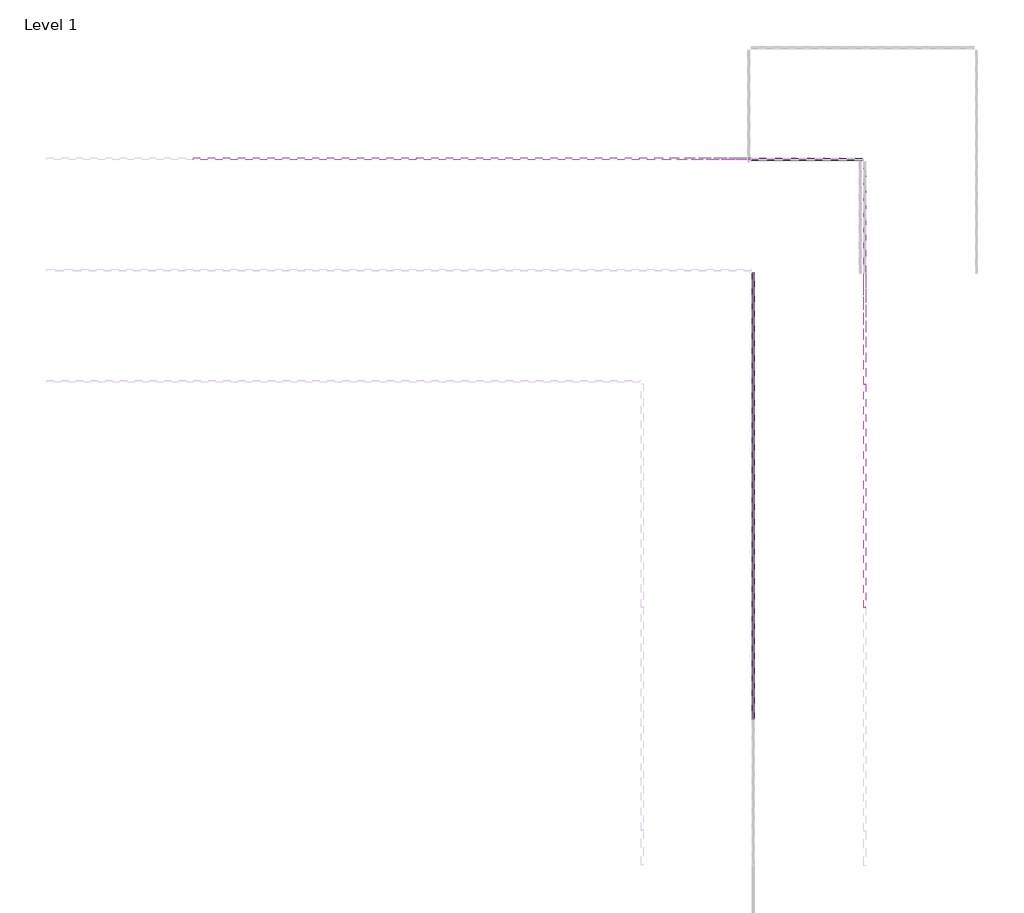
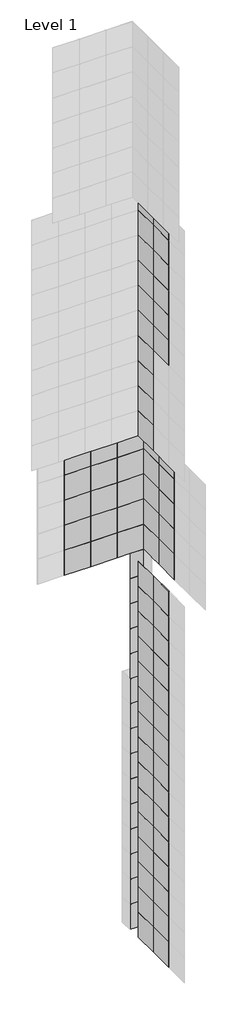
# One storey, part 10 of 15: 134 plates.
"""IFC4 building model written with IfcOpenShell, lengths in millimetres."""

from ifc_helpers import new_model, si_unit, origin, place, context, project, spatial, transform, mapped, element, save
from components import system_panel_glazed_9c75bc08, system_panel_glazed_0a0842ec, system_panel_glazed_aa64d645, system_panel_glazed_b248394d

model = new_model("IFC4")

# Units and contexts
model_context = context("Model", 3, world=origin())
ifc_project = project(units=[si_unit("LENGTHUNIT", "METRE", prefix="MILLI")], contexts=[model_context])

# Site, building, storey
site = spatial("IfcSite", under=ifc_project)
building = spatial("IfcBuilding", under=site)
storey = spatial("IfcBuildingStorey", under=building, Name="Level 1", Elevation=0.0)

# Plates
placement = place(None, origin())
system_panel_glazed_shape = system_panel_glazed_9c75bc08(model_context)
element("IfcPlate", 1, ObjectType="System Panel : Glazed", at=placement, inside=storey, context=model_context, shape_type="MappedRepresentation", body=[
    mapped(system_panel_glazed_shape, transform((-6361.4161695, 9497.9495511, 0.0), x_axis=(-1.0, 0.0, 0.0), y_axis=(0.0, -1.0, 0.0), z_axis=(0.0, 0.0, 1.0))),
])
element("IfcPlate", 2, ObjectType="System Panel : Glazed", at=placement, inside=storey, context=model_context, shape_type="MappedRepresentation", body=[
    mapped(system_panel_glazed_shape, transform((-6361.4161695, 9497.9495511, 3048.0), x_axis=(-1.0, 0.0, 0.0), y_axis=(0.0, -1.0, 0.0), z_axis=(0.0, 0.0, 1.0))),
])
element("IfcPlate", 3, ObjectType="System Panel : Glazed", at=placement, inside=storey, context=model_context, shape_type="MappedRepresentation", body=[
    mapped(system_panel_glazed_shape, transform((-6361.4161695, 9497.9495511, 6096.0), x_axis=(-1.0, 0.0, 0.0), y_axis=(0.0, -1.0, 0.0), z_axis=(0.0, 0.0, 1.0))),
])
element("IfcPlate", 4, ObjectType="System Panel : Glazed", at=placement, inside=storey, context=model_context, shape_type="MappedRepresentation", body=[
    mapped(system_panel_glazed_shape, transform((-6361.4161695, 9497.9495511, 9144.0), x_axis=(-1.0, 0.0, 0.0), y_axis=(0.0, -1.0, 0.0), z_axis=(0.0, 0.0, 1.0))),
])
element("IfcPlate", 5, ObjectType="System Panel : Glazed", at=placement, inside=storey, context=model_context, shape_type="MappedRepresentation", body=[
    mapped(system_panel_glazed_shape, transform((-6361.4161695, 9497.9495511, 12192.0), x_axis=(-1.0, 0.0, 0.0), y_axis=(0.0, -1.0, 0.0), z_axis=(0.0, 0.0, 1.0))),
])
element("IfcPlate", 6, ObjectType="System Panel : Glazed", at=placement, inside=storey, context=model_context, shape_type="MappedRepresentation", body=[
    mapped(system_panel_glazed_shape, transform((-6361.4161695, 9497.9495511, 15240.0), x_axis=(-1.0, 0.0, 0.0), y_axis=(0.0, -1.0, 0.0), z_axis=(0.0, 0.0, 1.0))),
])
element("IfcPlate", 7, ObjectType="System Panel : Glazed", at=placement, inside=storey, context=model_context, shape_type="MappedRepresentation", body=[
    mapped(system_panel_glazed_shape, transform((-6361.4161695, 9497.9495511, 18288.0), x_axis=(-1.0, 0.0, 0.0), y_axis=(0.0, -1.0, 0.0), z_axis=(0.0, 0.0, 1.0))),
])
element("IfcPlate", 8, ObjectType="System Panel : Glazed", at=placement, inside=storey, context=model_context, shape_type="MappedRepresentation", body=[
    mapped(system_panel_glazed_shape, transform((-6361.4161695, 9497.9495511, 21336.0), x_axis=(-1.0, 0.0, 0.0), y_axis=(0.0, -1.0, 0.0), z_axis=(0.0, 0.0, 1.0))),
])
element("IfcPlate", 9, ObjectType="System Panel : Glazed", at=placement, inside=storey, context=model_context, shape_type="MappedRepresentation", body=[
    mapped(system_panel_glazed_shape, transform((-6361.4161695, 9497.9495511, 24384.0), x_axis=(-1.0, 0.0, 0.0), y_axis=(0.0, -1.0, 0.0), z_axis=(0.0, 0.0, 1.0))),
])
element("IfcPlate", 10, ObjectType="System Panel : Glazed", at=placement, inside=storey, context=model_context, shape_type="MappedRepresentation", body=[
    mapped(system_panel_glazed_shape, transform((-6361.4161695, 9497.9495511, 27432.0), x_axis=(-1.0, 0.0, 0.0), y_axis=(0.0, -1.0, 0.0), z_axis=(0.0, 0.0, 1.0))),
])
element("IfcPlate", 11, ObjectType="System Panel : Glazed", at=placement, inside=storey, context=model_context, shape_type="MappedRepresentation", body=[
    mapped(system_panel_glazed_shape, transform((-6361.4161695, 9497.9495511, 30480.0), x_axis=(-1.0, 0.0, 0.0), y_axis=(0.0, -1.0, 0.0), z_axis=(0.0, 0.0, 1.0))),
])
element("IfcPlate", 12, ObjectType="System Panel : Glazed", at=placement, inside=storey, context=model_context, shape_type="MappedRepresentation", body=[
    mapped(system_panel_glazed_shape, transform((-6361.4161695, 9497.9495511, 33528.0), x_axis=(-1.0, 0.0, 0.0), y_axis=(0.0, -1.0, 0.0), z_axis=(0.0, 0.0, 1.0))),
])
element("IfcPlate", 13, ObjectType="System Panel : Glazed", at=placement, inside=storey, context=model_context, shape_type="MappedRepresentation", body=[
    mapped(system_panel_glazed_shape, transform((-6361.4161695, 9497.9495511, 36576.0), x_axis=(-1.0, 0.0, 0.0), y_axis=(0.0, -1.0, 0.0), z_axis=(0.0, 0.0, 1.0))),
])
element("IfcPlate", 14, ObjectType="System Panel : Glazed", at=placement, inside=storey, context=model_context, shape_type="MappedRepresentation", body=[
    mapped(system_panel_glazed_shape, transform((-6361.4161695, 9497.9495511, 39624.0), x_axis=(-1.0, 0.0, 0.0), y_axis=(0.0, -1.0, 0.0), z_axis=(0.0, 0.0, 1.0))),
])
element("IfcPlate", 15, ObjectType="System Panel : Glazed", at=placement, inside=storey, context=model_context, shape_type="MappedRepresentation", body=[
    mapped(system_panel_glazed_shape, transform((-6361.4161695, 9497.9495511, 42672.0), x_axis=(-1.0, 0.0, 0.0), y_axis=(0.0, -1.0, 0.0), z_axis=(0.0, 0.0, 1.0))),
])
element("IfcPlate", 16, ObjectType="System Panel : Glazed", at=placement, inside=storey, context=model_context, shape_type="MappedRepresentation", body=[
    mapped(system_panel_glazed_shape, transform((-6361.4161695, 9497.9495511, 0.0), x_axis=(-1.0, 0.0, 0.0), y_axis=(0.0, -1.0, 0.0), z_axis=(0.0, 0.0, 1.0))),
])
element("IfcPlate", 17, ObjectType="System Panel : Glazed", at=placement, inside=storey, context=model_context, shape_type="MappedRepresentation", body=[
    mapped(system_panel_glazed_shape, transform((-6361.4161695, 9497.9495511, 3048.0), x_axis=(-1.0, 0.0, 0.0), y_axis=(0.0, -1.0, 0.0), z_axis=(0.0, 0.0, 1.0))),
])
element("IfcPlate", 18, ObjectType="System Panel : Glazed", at=placement, inside=storey, context=model_context, shape_type="MappedRepresentation", body=[
    mapped(system_panel_glazed_shape, transform((-6361.4161695, 9497.9495511, 6096.0), x_axis=(-1.0, 0.0, 0.0), y_axis=(0.0, -1.0, 0.0), z_axis=(0.0, 0.0, 1.0))),
])
element("IfcPlate", 19, ObjectType="System Panel : Glazed", at=placement, inside=storey, context=model_context, shape_type="MappedRepresentation", body=[
    mapped(system_panel_glazed_shape, transform((-6361.4161695, 9497.9495511, 9144.0), x_axis=(-1.0, 0.0, 0.0), y_axis=(0.0, -1.0, 0.0), z_axis=(0.0, 0.0, 1.0))),
])
element("IfcPlate", 20, ObjectType="System Panel : Glazed", at=placement, inside=storey, context=model_context, shape_type="MappedRepresentation", body=[
    mapped(system_panel_glazed_shape, transform((-6361.4161695, 9497.9495511, 12192.0), x_axis=(-1.0, 0.0, 0.0), y_axis=(0.0, -1.0, 0.0), z_axis=(0.0, 0.0, 1.0))),
])
element("IfcPlate", 21, ObjectType="System Panel : Glazed", at=placement, inside=storey, context=model_context, shape_type="MappedRepresentation", body=[
    mapped(system_panel_glazed_shape, transform((-6361.4161695, 9497.9495511, 15240.0), x_axis=(-1.0, 0.0, 0.0), y_axis=(0.0, -1.0, 0.0), z_axis=(0.0, 0.0, 1.0))),
])
element("IfcPlate", 22, ObjectType="System Panel : Glazed", at=placement, inside=storey, context=model_context, shape_type="MappedRepresentation", body=[
    mapped(system_panel_glazed_shape, transform((-6361.4161695, 9497.9495511, 18288.0), x_axis=(-1.0, 0.0, 0.0), y_axis=(0.0, -1.0, 0.0), z_axis=(0.0, 0.0, 1.0))),
])
element("IfcPlate", 23, ObjectType="System Panel : Glazed", at=placement, inside=storey, context=model_context, shape_type="MappedRepresentation", body=[
    mapped(system_panel_glazed_shape, transform((-6361.4161695, 9497.9495511, 21336.0), x_axis=(-1.0, 0.0, 0.0), y_axis=(0.0, -1.0, 0.0), z_axis=(0.0, 0.0, 1.0))),
])
element("IfcPlate", 24, ObjectType="System Panel : Glazed", at=placement, inside=storey, context=model_context, shape_type="MappedRepresentation", body=[
    mapped(system_panel_glazed_shape, transform((-6361.4161695, 9497.9495511, 24384.0), x_axis=(-1.0, 0.0, 0.0), y_axis=(0.0, -1.0, 0.0), z_axis=(0.0, 0.0, 1.0))),
])
element("IfcPlate", 25, ObjectType="System Panel : Glazed", at=placement, inside=storey, context=model_context, shape_type="MappedRepresentation", body=[
    mapped(system_panel_glazed_shape, transform((-6361.4161695, 9497.9495511, 27432.0), x_axis=(-1.0, 0.0, 0.0), y_axis=(0.0, -1.0, 0.0), z_axis=(0.0, 0.0, 1.0))),
])
element("IfcPlate", 26, ObjectType="System Panel : Glazed", at=placement, inside=storey, context=model_context, shape_type="MappedRepresentation", body=[
    mapped(system_panel_glazed_shape, transform((-6361.4161695, 9497.9495511, 30480.0), x_axis=(-1.0, 0.0, 0.0), y_axis=(0.0, -1.0, 0.0), z_axis=(0.0, 0.0, 1.0))),
])
element("IfcPlate", 27, ObjectType="System Panel : Glazed", at=placement, inside=storey, context=model_context, shape_type="MappedRepresentation", body=[
    mapped(system_panel_glazed_shape, transform((-6361.4161695, 9497.9495511, 33528.0), x_axis=(-1.0, 0.0, 0.0), y_axis=(0.0, -1.0, 0.0), z_axis=(0.0, 0.0, 1.0))),
])
element("IfcPlate", 28, ObjectType="System Panel : Glazed", at=placement, inside=storey, context=model_context, shape_type="MappedRepresentation", body=[
    mapped(system_panel_glazed_shape, transform((-6361.4161695, 9497.9495511, 36576.0), x_axis=(-1.0, 0.0, 0.0), y_axis=(0.0, -1.0, 0.0), z_axis=(0.0, 0.0, 1.0))),
])
element("IfcPlate", 29, ObjectType="System Panel : Glazed", at=placement, inside=storey, context=model_context, shape_type="MappedRepresentation", body=[
    mapped(system_panel_glazed_shape, transform((-6361.4161695, 9497.9495511, 39624.0), x_axis=(-1.0, 0.0, 0.0), y_axis=(0.0, -1.0, 0.0), z_axis=(0.0, 0.0, 1.0))),
])
element("IfcPlate", 30, ObjectType="System Panel : Glazed", at=placement, inside=storey, context=model_context, shape_type="MappedRepresentation", body=[
    mapped(system_panel_glazed_shape, transform((-6361.4161695, 9497.9495511, 42672.0), x_axis=(-1.0, 0.0, 0.0), y_axis=(0.0, -1.0, 0.0), z_axis=(0.0, 0.0, 1.0))),
])
element("IfcPlate", 31, ObjectType="System Panel : Glazed", at=placement, inside=storey, context=model_context, shape_type="MappedRepresentation", body=[
    mapped(system_panel_glazed_shape, transform((-6361.4161695, 9497.9495511, 0.0), x_axis=(-1.0, 0.0, 0.0), y_axis=(0.0, -1.0, 0.0), z_axis=(0.0, 0.0, 1.0))),
])
element("IfcPlate", 32, ObjectType="System Panel : Glazed", at=placement, inside=storey, context=model_context, shape_type="MappedRepresentation", body=[
    mapped(system_panel_glazed_shape, transform((-6361.4161695, 9497.9495511, 3048.0), x_axis=(-1.0, 0.0, 0.0), y_axis=(0.0, -1.0, 0.0), z_axis=(0.0, 0.0, 1.0))),
])
element("IfcPlate", 33, ObjectType="System Panel : Glazed", at=placement, inside=storey, context=model_context, shape_type="MappedRepresentation", body=[
    mapped(system_panel_glazed_shape, transform((-6361.4161695, 9497.9495511, 6096.0), x_axis=(-1.0, 0.0, 0.0), y_axis=(0.0, -1.0, 0.0), z_axis=(0.0, 0.0, 1.0))),
])
system_panel_glazed_2_shape = system_panel_glazed_0a0842ec(model_context)
element("IfcPlate", 34, ObjectType="System Panel : Glazed", at=placement, inside=storey, context=model_context, shape_type="MappedRepresentation", body=[
    mapped(system_panel_glazed_2_shape, transform((-5599.4161695, 7973.9495511, 45720.0), x_axis=(0.0, 1.0, 0.0), y_axis=(-1.0, 0.0, 0.0), z_axis=(0.0, 0.0, 1.0))),
])
element("IfcPlate", 35, ObjectType="System Panel : Glazed", at=placement, inside=storey, context=model_context, shape_type="MappedRepresentation", body=[
    mapped(system_panel_glazed_2_shape, transform((-7123.4161695, 9497.9495511, 45720.0), x_axis=(-1.0, 0.0, 0.0), y_axis=(0.0, -1.0, 0.0), z_axis=(0.0, 0.0, 1.0))),
])
element("IfcPlate", 36, ObjectType="System Panel : Glazed", at=placement, inside=storey, context=model_context, shape_type="MappedRepresentation", body=[
    mapped(system_panel_glazed_2_shape, transform((-7123.4161695, 9497.9495511, 45720.0), x_axis=(-1.0, 0.0, 0.0), y_axis=(0.0, -1.0, 0.0), z_axis=(0.0, 0.0, 1.0))),
])
element("IfcPlate", 37, ObjectType="System Panel : Glazed", at=placement, inside=storey, context=model_context, shape_type="MappedRepresentation", body=[
    mapped(system_panel_glazed_2_shape, transform((-7123.4161695, 9497.9495511, 45720.0), x_axis=(-1.0, 0.0, 0.0), y_axis=(0.0, -1.0, 0.0), z_axis=(0.0, 0.0, 1.0))),
])
system_panel_glazed_3_shape = system_panel_glazed_aa64d645(model_context)
element("IfcPlate", 38, ObjectType="System Panel : Glazed", at=placement, inside=storey, context=model_context, shape_type="MappedRepresentation", body=[
    mapped(system_panel_glazed_3_shape, transform((-5599.4161695, 4925.9495511, 45720.0), x_axis=(0.0, 1.0, 0.0), y_axis=(-1.0, 0.0, 0.0), z_axis=(0.0, 0.0, 1.0))),
])
element("IfcPlate", 39, ObjectType="System Panel : Glazed", at=placement, inside=storey, context=model_context, shape_type="MappedRepresentation", body=[
    mapped(system_panel_glazed_3_shape, transform((-5599.4161695, 4925.9495511, 48768.0), x_axis=(0.0, 1.0, 0.0), y_axis=(-1.0, 0.0, 0.0), z_axis=(0.0, 0.0, 1.0))),
])
element("IfcPlate", 40, ObjectType="System Panel : Glazed", at=placement, inside=storey, context=model_context, shape_type="MappedRepresentation", body=[
    mapped(system_panel_glazed_3_shape, transform((-5599.4161695, 7973.9495511, 48768.0), x_axis=(0.0, 1.0, 0.0), y_axis=(-1.0, 0.0, 0.0), z_axis=(0.0, 0.0, 1.0))),
])
element("IfcPlate", 41, ObjectType="System Panel : Glazed", at=placement, inside=storey, context=model_context, shape_type="MappedRepresentation", body=[
    mapped(system_panel_glazed_3_shape, transform((-5599.4161695, 4925.9495511, 51816.0), x_axis=(0.0, 1.0, 0.0), y_axis=(-1.0, 0.0, 0.0), z_axis=(0.0, 0.0, 1.0))),
])
element("IfcPlate", 42, ObjectType="System Panel : Glazed", at=placement, inside=storey, context=model_context, shape_type="MappedRepresentation", body=[
    mapped(system_panel_glazed_3_shape, transform((-5599.4161695, 7973.9495511, 51816.0), x_axis=(0.0, 1.0, 0.0), y_axis=(-1.0, 0.0, 0.0), z_axis=(0.0, 0.0, 1.0))),
])
element("IfcPlate", 43, ObjectType="System Panel : Glazed", at=placement, inside=storey, context=model_context, shape_type="MappedRepresentation", body=[
    mapped(system_panel_glazed_3_shape, transform((-5599.4161695, 4925.9495511, 54864.0), x_axis=(0.0, 1.0, 0.0), y_axis=(-1.0, 0.0, 0.0), z_axis=(0.0, 0.0, 1.0))),
])
element("IfcPlate", 44, ObjectType="System Panel : Glazed", at=placement, inside=storey, context=model_context, shape_type="MappedRepresentation", body=[
    mapped(system_panel_glazed_3_shape, transform((-5599.4161695, 7973.9495511, 54864.0), x_axis=(0.0, 1.0, 0.0), y_axis=(-1.0, 0.0, 0.0), z_axis=(0.0, 0.0, 1.0))),
])
element("IfcPlate", 45, ObjectType="System Panel : Glazed", at=placement, inside=storey, context=model_context, shape_type="MappedRepresentation", body=[
    mapped(system_panel_glazed_3_shape, transform((-5599.4161695, 4925.9495511, 57912.0), x_axis=(0.0, 1.0, 0.0), y_axis=(-1.0, 0.0, 0.0), z_axis=(0.0, 0.0, 1.0))),
])
element("IfcPlate", 46, ObjectType="System Panel : Glazed", at=placement, inside=storey, context=model_context, shape_type="MappedRepresentation", body=[
    mapped(system_panel_glazed_3_shape, transform((-5599.4161695, 7973.9495511, 57912.0), x_axis=(0.0, 1.0, 0.0), y_axis=(-1.0, 0.0, 0.0), z_axis=(0.0, 0.0, 1.0))),
])
element("IfcPlate", 47, ObjectType="System Panel : Glazed", at=placement, inside=storey, context=model_context, shape_type="MappedRepresentation", body=[
    mapped(system_panel_glazed_3_shape, transform((-10171.4161695, 9497.9495511, 45720.0), x_axis=(-1.0, 0.0, 0.0), y_axis=(0.0, -1.0, 0.0), z_axis=(0.0, 0.0, 1.0))),
])
element("IfcPlate", 48, ObjectType="System Panel : Glazed", at=placement, inside=storey, context=model_context, shape_type="MappedRepresentation", body=[
    mapped(system_panel_glazed_3_shape, transform((-13219.4161695, 9497.9495511, 45720.0), x_axis=(-1.0, 0.0, 0.0), y_axis=(0.0, -1.0, 0.0), z_axis=(0.0, 0.0, 1.0))),
])
element("IfcPlate", 49, ObjectType="System Panel : Glazed", at=placement, inside=storey, context=model_context, shape_type="MappedRepresentation", body=[
    mapped(system_panel_glazed_3_shape, transform((-7123.4161695, 9497.9495511, 48768.0), x_axis=(-1.0, 0.0, 0.0), y_axis=(0.0, -1.0, 0.0), z_axis=(0.0, 0.0, 1.0))),
])
element("IfcPlate", 50, ObjectType="System Panel : Glazed", at=placement, inside=storey, context=model_context, shape_type="MappedRepresentation", body=[
    mapped(system_panel_glazed_3_shape, transform((-10171.4161695, 9497.9495511, 48768.0), x_axis=(-1.0, 0.0, 0.0), y_axis=(0.0, -1.0, 0.0), z_axis=(0.0, 0.0, 1.0))),
])
element("IfcPlate", 51, ObjectType="System Panel : Glazed", at=placement, inside=storey, context=model_context, shape_type="MappedRepresentation", body=[
    mapped(system_panel_glazed_3_shape, transform((-13219.4161695, 9497.9495511, 48768.0), x_axis=(-1.0, 0.0, 0.0), y_axis=(0.0, -1.0, 0.0), z_axis=(0.0, 0.0, 1.0))),
])
element("IfcPlate", 52, ObjectType="System Panel : Glazed", at=placement, inside=storey, context=model_context, shape_type="MappedRepresentation", body=[
    mapped(system_panel_glazed_3_shape, transform((-7123.4161695, 9497.9495511, 51816.0), x_axis=(-1.0, 0.0, 0.0), y_axis=(0.0, -1.0, 0.0), z_axis=(0.0, 0.0, 1.0))),
])
element("IfcPlate", 53, ObjectType="System Panel : Glazed", at=placement, inside=storey, context=model_context, shape_type="MappedRepresentation", body=[
    mapped(system_panel_glazed_3_shape, transform((-10171.4161695, 9497.9495511, 51816.0), x_axis=(-1.0, 0.0, 0.0), y_axis=(0.0, -1.0, 0.0), z_axis=(0.0, 0.0, 1.0))),
])
element("IfcPlate", 54, ObjectType="System Panel : Glazed", at=placement, inside=storey, context=model_context, shape_type="MappedRepresentation", body=[
    mapped(system_panel_glazed_3_shape, transform((-13219.4161695, 9497.9495511, 51816.0), x_axis=(-1.0, 0.0, 0.0), y_axis=(0.0, -1.0, 0.0), z_axis=(0.0, 0.0, 1.0))),
])
element("IfcPlate", 55, ObjectType="System Panel : Glazed", at=placement, inside=storey, context=model_context, shape_type="MappedRepresentation", body=[
    mapped(system_panel_glazed_3_shape, transform((-7123.4161695, 9497.9495511, 54864.0), x_axis=(-1.0, 0.0, 0.0), y_axis=(0.0, -1.0, 0.0), z_axis=(0.0, 0.0, 1.0))),
])
element("IfcPlate", 56, ObjectType="System Panel : Glazed", at=placement, inside=storey, context=model_context, shape_type="MappedRepresentation", body=[
    mapped(system_panel_glazed_3_shape, transform((-10171.4161695, 9497.9495511, 54864.0), x_axis=(-1.0, 0.0, 0.0), y_axis=(0.0, -1.0, 0.0), z_axis=(0.0, 0.0, 1.0))),
])
element("IfcPlate", 57, ObjectType="System Panel : Glazed", at=placement, inside=storey, context=model_context, shape_type="MappedRepresentation", body=[
    mapped(system_panel_glazed_3_shape, transform((-13219.4161695, 9497.9495511, 54864.0), x_axis=(-1.0, 0.0, 0.0), y_axis=(0.0, -1.0, 0.0), z_axis=(0.0, 0.0, 1.0))),
])
element("IfcPlate", 58, ObjectType="System Panel : Glazed", at=placement, inside=storey, context=model_context, shape_type="MappedRepresentation", body=[
    mapped(system_panel_glazed_3_shape, transform((-7123.4161695, 9497.9495511, 57912.0), x_axis=(-1.0, 0.0, 0.0), y_axis=(0.0, -1.0, 0.0), z_axis=(0.0, 0.0, 1.0))),
])
element("IfcPlate", 59, ObjectType="System Panel : Glazed", at=placement, inside=storey, context=model_context, shape_type="MappedRepresentation", body=[
    mapped(system_panel_glazed_3_shape, transform((-10171.4161695, 9497.9495511, 57912.0), x_axis=(-1.0, 0.0, 0.0), y_axis=(0.0, -1.0, 0.0), z_axis=(0.0, 0.0, 1.0))),
])
element("IfcPlate", 60, ObjectType="System Panel : Glazed", at=placement, inside=storey, context=model_context, shape_type="MappedRepresentation", body=[
    mapped(system_panel_glazed_3_shape, transform((-13219.4161695, 9497.9495511, 57912.0), x_axis=(-1.0, 0.0, 0.0), y_axis=(0.0, -1.0, 0.0), z_axis=(0.0, 0.0, 1.0))),
])
element("IfcPlate", 61, ObjectType="System Panel : Glazed", at=placement, inside=storey, context=model_context, shape_type="MappedRepresentation", body=[
    mapped(system_panel_glazed_3_shape, transform((-7123.4161695, 6449.9495511, 60960.0), x_axis=(0.0, 1.0, 0.0), y_axis=(-1.0, 0.0, 0.0), z_axis=(0.0, 0.0, 1.0))),
])
element("IfcPlate", 62, ObjectType="System Panel : Glazed", at=placement, inside=storey, context=model_context, shape_type="MappedRepresentation", body=[
    mapped(system_panel_glazed_3_shape, transform((-7123.4161695, 6449.9495511, 64008.0), x_axis=(0.0, 1.0, 0.0), y_axis=(-1.0, 0.0, 0.0), z_axis=(0.0, 0.0, 1.0))),
])
element("IfcPlate", 63, ObjectType="System Panel : Glazed", at=placement, inside=storey, context=model_context, shape_type="MappedRepresentation", body=[
    mapped(system_panel_glazed_3_shape, transform((-7123.4161695, 6449.9495511, 67056.0), x_axis=(0.0, 1.0, 0.0), y_axis=(-1.0, 0.0, 0.0), z_axis=(0.0, 0.0, 1.0))),
])
element("IfcPlate", 64, ObjectType="System Panel : Glazed", at=placement, inside=storey, context=model_context, shape_type="MappedRepresentation", body=[
    mapped(system_panel_glazed_3_shape, transform((-7123.4161695, 6449.9495511, 70104.0), x_axis=(0.0, 1.0, 0.0), y_axis=(-1.0, 0.0, 0.0), z_axis=(0.0, 0.0, 1.0))),
])
element("IfcPlate", 65, ObjectType="System Panel : Glazed", at=placement, inside=storey, context=model_context, shape_type="MappedRepresentation", body=[
    mapped(system_panel_glazed_3_shape, transform((-7123.4161695, 3401.9495511, 73152.0), x_axis=(0.0, 1.0, 0.0), y_axis=(-1.0, 0.0, 0.0), z_axis=(0.0, 0.0, 1.0))),
])
element("IfcPlate", 66, ObjectType="System Panel : Glazed", at=placement, inside=storey, context=model_context, shape_type="MappedRepresentation", body=[
    mapped(system_panel_glazed_3_shape, transform((-7123.4161695, 6449.9495511, 73152.0), x_axis=(0.0, 1.0, 0.0), y_axis=(-1.0, 0.0, 0.0), z_axis=(0.0, 0.0, 1.0))),
])
element("IfcPlate", 67, ObjectType="System Panel : Glazed", at=placement, inside=storey, context=model_context, shape_type="MappedRepresentation", body=[
    mapped(system_panel_glazed_3_shape, transform((-7123.4161695, 3401.9495511, 76200.0), x_axis=(0.0, 1.0, 0.0), y_axis=(-1.0, 0.0, 0.0), z_axis=(0.0, 0.0, 1.0))),
])
element("IfcPlate", 68, ObjectType="System Panel : Glazed", at=placement, inside=storey, context=model_context, shape_type="MappedRepresentation", body=[
    mapped(system_panel_glazed_3_shape, transform((-7123.4161695, 6449.9495511, 76200.0), x_axis=(0.0, 1.0, 0.0), y_axis=(-1.0, 0.0, 0.0), z_axis=(0.0, 0.0, 1.0))),
])
element("IfcPlate", 69, ObjectType="System Panel : Glazed", at=placement, inside=storey, context=model_context, shape_type="MappedRepresentation", body=[
    mapped(system_panel_glazed_3_shape, transform((-7123.4161695, 3401.9495511, 79248.0), x_axis=(0.0, 1.0, 0.0), y_axis=(-1.0, 0.0, 0.0), z_axis=(0.0, 0.0, 1.0))),
])
element("IfcPlate", 70, ObjectType="System Panel : Glazed", at=placement, inside=storey, context=model_context, shape_type="MappedRepresentation", body=[
    mapped(system_panel_glazed_3_shape, transform((-7123.4161695, 6449.9495511, 79248.0), x_axis=(0.0, 1.0, 0.0), y_axis=(-1.0, 0.0, 0.0), z_axis=(0.0, 0.0, 1.0))),
])
element("IfcPlate", 71, ObjectType="System Panel : Glazed", at=placement, inside=storey, context=model_context, shape_type="MappedRepresentation", body=[
    mapped(system_panel_glazed_3_shape, transform((-7123.4161695, 3401.9495511, 82296.0), x_axis=(0.0, 1.0, 0.0), y_axis=(-1.0, 0.0, 0.0), z_axis=(0.0, 0.0, 1.0))),
])
element("IfcPlate", 72, ObjectType="System Panel : Glazed", at=placement, inside=storey, context=model_context, shape_type="MappedRepresentation", body=[
    mapped(system_panel_glazed_3_shape, transform((-7123.4161695, 6449.9495511, 82296.0), x_axis=(0.0, 1.0, 0.0), y_axis=(-1.0, 0.0, 0.0), z_axis=(0.0, 0.0, 1.0))),
])
element("IfcPlate", 73, ObjectType="System Panel : Glazed", at=placement, inside=storey, context=model_context, shape_type="MappedRepresentation", body=[
    mapped(system_panel_glazed_3_shape, transform((-7123.4161695, 3401.9495511, 85344.0), x_axis=(0.0, 1.0, 0.0), y_axis=(-1.0, 0.0, 0.0), z_axis=(0.0, 0.0, 1.0))),
])
element("IfcPlate", 74, ObjectType="System Panel : Glazed", at=placement, inside=storey, context=model_context, shape_type="MappedRepresentation", body=[
    mapped(system_panel_glazed_3_shape, transform((-7123.4161695, 6449.9495511, 85344.0), x_axis=(0.0, 1.0, 0.0), y_axis=(-1.0, 0.0, 0.0), z_axis=(0.0, 0.0, 1.0))),
])
element("IfcPlate", 75, ObjectType="System Panel : Glazed", at=placement, inside=storey, context=model_context, shape_type="MappedRepresentation", body=[
    mapped(system_panel_glazed_3_shape, transform((-7123.4161695, 3401.9495511, 88392.0), x_axis=(0.0, 1.0, 0.0), y_axis=(-1.0, 0.0, 0.0), z_axis=(0.0, 0.0, 1.0))),
])
element("IfcPlate", 76, ObjectType="System Panel : Glazed", at=placement, inside=storey, context=model_context, shape_type="MappedRepresentation", body=[
    mapped(system_panel_glazed_3_shape, transform((-7123.4161695, 6449.9495511, 88392.0), x_axis=(0.0, 1.0, 0.0), y_axis=(-1.0, 0.0, 0.0), z_axis=(0.0, 0.0, 1.0))),
])
element("IfcPlate", 77, ObjectType="System Panel : Glazed", at=placement, inside=storey, context=model_context, shape_type="MappedRepresentation", body=[
    mapped(system_panel_glazed_3_shape, transform((-10171.4161695, 9497.9495511, 45720.0), x_axis=(-1.0, 0.0, 0.0), y_axis=(0.0, -1.0, 0.0), z_axis=(0.0, 0.0, 1.0))),
])
element("IfcPlate", 78, ObjectType="System Panel : Glazed", at=placement, inside=storey, context=model_context, shape_type="MappedRepresentation", body=[
    mapped(system_panel_glazed_3_shape, transform((-13219.4161695, 9497.9495511, 45720.0), x_axis=(-1.0, 0.0, 0.0), y_axis=(0.0, -1.0, 0.0), z_axis=(0.0, 0.0, 1.0))),
])
element("IfcPlate", 79, ObjectType="System Panel : Glazed", at=placement, inside=storey, context=model_context, shape_type="MappedRepresentation", body=[
    mapped(system_panel_glazed_3_shape, transform((-7123.4161695, 9497.9495511, 48768.0), x_axis=(-1.0, 0.0, 0.0), y_axis=(0.0, -1.0, 0.0), z_axis=(0.0, 0.0, 1.0))),
])
element("IfcPlate", 80, ObjectType="System Panel : Glazed", at=placement, inside=storey, context=model_context, shape_type="MappedRepresentation", body=[
    mapped(system_panel_glazed_3_shape, transform((-10171.4161695, 9497.9495511, 48768.0), x_axis=(-1.0, 0.0, 0.0), y_axis=(0.0, -1.0, 0.0), z_axis=(0.0, 0.0, 1.0))),
])
element("IfcPlate", 81, ObjectType="System Panel : Glazed", at=placement, inside=storey, context=model_context, shape_type="MappedRepresentation", body=[
    mapped(system_panel_glazed_3_shape, transform((-13219.4161695, 9497.9495511, 48768.0), x_axis=(-1.0, 0.0, 0.0), y_axis=(0.0, -1.0, 0.0), z_axis=(0.0, 0.0, 1.0))),
])
element("IfcPlate", 82, ObjectType="System Panel : Glazed", at=placement, inside=storey, context=model_context, shape_type="MappedRepresentation", body=[
    mapped(system_panel_glazed_3_shape, transform((-7123.4161695, 9497.9495511, 51816.0), x_axis=(-1.0, 0.0, 0.0), y_axis=(0.0, -1.0, 0.0), z_axis=(0.0, 0.0, 1.0))),
])
element("IfcPlate", 83, ObjectType="System Panel : Glazed", at=placement, inside=storey, context=model_context, shape_type="MappedRepresentation", body=[
    mapped(system_panel_glazed_3_shape, transform((-10171.4161695, 9497.9495511, 51816.0), x_axis=(-1.0, 0.0, 0.0), y_axis=(0.0, -1.0, 0.0), z_axis=(0.0, 0.0, 1.0))),
])
element("IfcPlate", 84, ObjectType="System Panel : Glazed", at=placement, inside=storey, context=model_context, shape_type="MappedRepresentation", body=[
    mapped(system_panel_glazed_3_shape, transform((-13219.4161695, 9497.9495511, 51816.0), x_axis=(-1.0, 0.0, 0.0), y_axis=(0.0, -1.0, 0.0), z_axis=(0.0, 0.0, 1.0))),
])
element("IfcPlate", 85, ObjectType="System Panel : Glazed", at=placement, inside=storey, context=model_context, shape_type="MappedRepresentation", body=[
    mapped(system_panel_glazed_3_shape, transform((-7123.4161695, 9497.9495511, 54864.0), x_axis=(-1.0, 0.0, 0.0), y_axis=(0.0, -1.0, 0.0), z_axis=(0.0, 0.0, 1.0))),
])
element("IfcPlate", 86, ObjectType="System Panel : Glazed", at=placement, inside=storey, context=model_context, shape_type="MappedRepresentation", body=[
    mapped(system_panel_glazed_3_shape, transform((-10171.4161695, 9497.9495511, 54864.0), x_axis=(-1.0, 0.0, 0.0), y_axis=(0.0, -1.0, 0.0), z_axis=(0.0, 0.0, 1.0))),
])
element("IfcPlate", 87, ObjectType="System Panel : Glazed", at=placement, inside=storey, context=model_context, shape_type="MappedRepresentation", body=[
    mapped(system_panel_glazed_3_shape, transform((-13219.4161695, 9497.9495511, 54864.0), x_axis=(-1.0, 0.0, 0.0), y_axis=(0.0, -1.0, 0.0), z_axis=(0.0, 0.0, 1.0))),
])
element("IfcPlate", 88, ObjectType="System Panel : Glazed", at=placement, inside=storey, context=model_context, shape_type="MappedRepresentation", body=[
    mapped(system_panel_glazed_3_shape, transform((-7123.4161695, 9497.9495511, 57912.0), x_axis=(-1.0, 0.0, 0.0), y_axis=(0.0, -1.0, 0.0), z_axis=(0.0, 0.0, 1.0))),
])
element("IfcPlate", 89, ObjectType="System Panel : Glazed", at=placement, inside=storey, context=model_context, shape_type="MappedRepresentation", body=[
    mapped(system_panel_glazed_3_shape, transform((-10171.4161695, 9497.9495511, 57912.0), x_axis=(-1.0, 0.0, 0.0), y_axis=(0.0, -1.0, 0.0), z_axis=(0.0, 0.0, 1.0))),
])
element("IfcPlate", 90, ObjectType="System Panel : Glazed", at=placement, inside=storey, context=model_context, shape_type="MappedRepresentation", body=[
    mapped(system_panel_glazed_3_shape, transform((-13219.4161695, 9497.9495511, 57912.0), x_axis=(-1.0, 0.0, 0.0), y_axis=(0.0, -1.0, 0.0), z_axis=(0.0, 0.0, 1.0))),
])
element("IfcPlate", 91, ObjectType="System Panel : Glazed", at=placement, inside=storey, context=model_context, shape_type="MappedRepresentation", body=[
    mapped(system_panel_glazed_3_shape, transform((-10171.4161695, 9497.9495511, 45720.0), x_axis=(-1.0, 0.0, 0.0), y_axis=(0.0, -1.0, 0.0), z_axis=(0.0, 0.0, 1.0))),
])
element("IfcPlate", 92, ObjectType="System Panel : Glazed", at=placement, inside=storey, context=model_context, shape_type="MappedRepresentation", body=[
    mapped(system_panel_glazed_3_shape, transform((-13219.4161695, 9497.9495511, 45720.0), x_axis=(-1.0, 0.0, 0.0), y_axis=(0.0, -1.0, 0.0), z_axis=(0.0, 0.0, 1.0))),
])
element("IfcPlate", 93, ObjectType="System Panel : Glazed", at=placement, inside=storey, context=model_context, shape_type="MappedRepresentation", body=[
    mapped(system_panel_glazed_3_shape, transform((-7123.4161695, 9497.9495511, 48768.0), x_axis=(-1.0, 0.0, 0.0), y_axis=(0.0, -1.0, 0.0), z_axis=(0.0, 0.0, 1.0))),
])
element("IfcPlate", 94, ObjectType="System Panel : Glazed", at=placement, inside=storey, context=model_context, shape_type="MappedRepresentation", body=[
    mapped(system_panel_glazed_3_shape, transform((-10171.4161695, 9497.9495511, 48768.0), x_axis=(-1.0, 0.0, 0.0), y_axis=(0.0, -1.0, 0.0), z_axis=(0.0, 0.0, 1.0))),
])
element("IfcPlate", 95, ObjectType="System Panel : Glazed", at=placement, inside=storey, context=model_context, shape_type="MappedRepresentation", body=[
    mapped(system_panel_glazed_3_shape, transform((-13219.4161695, 9497.9495511, 48768.0), x_axis=(-1.0, 0.0, 0.0), y_axis=(0.0, -1.0, 0.0), z_axis=(0.0, 0.0, 1.0))),
])
element("IfcPlate", 96, ObjectType="System Panel : Glazed", at=placement, inside=storey, context=model_context, shape_type="MappedRepresentation", body=[
    mapped(system_panel_glazed_3_shape, transform((-7123.4161695, 9497.9495511, 51816.0), x_axis=(-1.0, 0.0, 0.0), y_axis=(0.0, -1.0, 0.0), z_axis=(0.0, 0.0, 1.0))),
])
element("IfcPlate", 97, ObjectType="System Panel : Glazed", at=placement, inside=storey, context=model_context, shape_type="MappedRepresentation", body=[
    mapped(system_panel_glazed_3_shape, transform((-10171.4161695, 9497.9495511, 51816.0), x_axis=(-1.0, 0.0, 0.0), y_axis=(0.0, -1.0, 0.0), z_axis=(0.0, 0.0, 1.0))),
])
element("IfcPlate", 98, ObjectType="System Panel : Glazed", at=placement, inside=storey, context=model_context, shape_type="MappedRepresentation", body=[
    mapped(system_panel_glazed_3_shape, transform((-13219.4161695, 9497.9495511, 51816.0), x_axis=(-1.0, 0.0, 0.0), y_axis=(0.0, -1.0, 0.0), z_axis=(0.0, 0.0, 1.0))),
])
element("IfcPlate", 99, ObjectType="System Panel : Glazed", at=placement, inside=storey, context=model_context, shape_type="MappedRepresentation", body=[
    mapped(system_panel_glazed_3_shape, transform((-7123.4161695, 9497.9495511, 54864.0), x_axis=(-1.0, 0.0, 0.0), y_axis=(0.0, -1.0, 0.0), z_axis=(0.0, 0.0, 1.0))),
])
element("IfcPlate", 100, ObjectType="System Panel : Glazed", at=placement, inside=storey, context=model_context, shape_type="MappedRepresentation", body=[
    mapped(system_panel_glazed_3_shape, transform((-10171.4161695, 9497.9495511, 54864.0), x_axis=(-1.0, 0.0, 0.0), y_axis=(0.0, -1.0, 0.0), z_axis=(0.0, 0.0, 1.0))),
])
element("IfcPlate", 101, ObjectType="System Panel : Glazed", at=placement, inside=storey, context=model_context, shape_type="MappedRepresentation", body=[
    mapped(system_panel_glazed_3_shape, transform((-13219.4161695, 9497.9495511, 54864.0), x_axis=(-1.0, 0.0, 0.0), y_axis=(0.0, -1.0, 0.0), z_axis=(0.0, 0.0, 1.0))),
])
element("IfcPlate", 102, ObjectType="System Panel : Glazed", at=placement, inside=storey, context=model_context, shape_type="MappedRepresentation", body=[
    mapped(system_panel_glazed_3_shape, transform((-7123.4161695, 9497.9495511, 57912.0), x_axis=(-1.0, 0.0, 0.0), y_axis=(0.0, -1.0, 0.0), z_axis=(0.0, 0.0, 1.0))),
])
element("IfcPlate", 103, ObjectType="System Panel : Glazed", at=placement, inside=storey, context=model_context, shape_type="MappedRepresentation", body=[
    mapped(system_panel_glazed_3_shape, transform((-10171.4161695, 9497.9495511, 57912.0), x_axis=(-1.0, 0.0, 0.0), y_axis=(0.0, -1.0, 0.0), z_axis=(0.0, 0.0, 1.0))),
])
element("IfcPlate", 104, ObjectType="System Panel : Glazed", at=placement, inside=storey, context=model_context, shape_type="MappedRepresentation", body=[
    mapped(system_panel_glazed_3_shape, transform((-13219.4161695, 9497.9495511, 57912.0), x_axis=(-1.0, 0.0, 0.0), y_axis=(0.0, -1.0, 0.0), z_axis=(0.0, 0.0, 1.0))),
])
system_panel_glazed_4_shape = system_panel_glazed_b248394d(model_context)
element("IfcPlate", 105, ObjectType="System Panel : Glazed", at=placement, inside=storey, context=model_context, shape_type="MappedRepresentation", body=[
    mapped(system_panel_glazed_4_shape, transform((-7123.4161695, 6449.9495511, 0.0), x_axis=(0.0, -1.0, 0.0), y_axis=(1.0, 0.0, 0.0), z_axis=(0.0, 0.0, 1.0))),
])
element("IfcPlate", 106, ObjectType="System Panel : Glazed", at=placement, inside=storey, context=model_context, shape_type="MappedRepresentation", body=[
    mapped(system_panel_glazed_4_shape, transform((-7123.4161695, 3401.9495511, 0.0), x_axis=(0.0, -1.0, 0.0), y_axis=(1.0, 0.0, 0.0), z_axis=(0.0, 0.0, 1.0))),
])
element("IfcPlate", 107, ObjectType="System Panel : Glazed", at=placement, inside=storey, context=model_context, shape_type="MappedRepresentation", body=[
    mapped(system_panel_glazed_4_shape, transform((-7123.4161695, 6449.9495511, 3048.0), x_axis=(0.0, -1.0, 0.0), y_axis=(1.0, 0.0, 0.0), z_axis=(0.0, 0.0, 1.0))),
])
element("IfcPlate", 108, ObjectType="System Panel : Glazed", at=placement, inside=storey, context=model_context, shape_type="MappedRepresentation", body=[
    mapped(system_panel_glazed_4_shape, transform((-7123.4161695, 3401.9495511, 3048.0), x_axis=(0.0, -1.0, 0.0), y_axis=(1.0, 0.0, 0.0), z_axis=(0.0, 0.0, 1.0))),
])
element("IfcPlate", 109, ObjectType="System Panel : Glazed", at=placement, inside=storey, context=model_context, shape_type="MappedRepresentation", body=[
    mapped(system_panel_glazed_4_shape, transform((-7123.4161695, 6449.9495511, 6096.0), x_axis=(0.0, -1.0, 0.0), y_axis=(1.0, 0.0, 0.0), z_axis=(0.0, 0.0, 1.0))),
])
element("IfcPlate", 110, ObjectType="System Panel : Glazed", at=placement, inside=storey, context=model_context, shape_type="MappedRepresentation", body=[
    mapped(system_panel_glazed_4_shape, transform((-7123.4161695, 3401.9495511, 6096.0), x_axis=(0.0, -1.0, 0.0), y_axis=(1.0, 0.0, 0.0), z_axis=(0.0, 0.0, 1.0))),
])
element("IfcPlate", 111, ObjectType="System Panel : Glazed", at=placement, inside=storey, context=model_context, shape_type="MappedRepresentation", body=[
    mapped(system_panel_glazed_4_shape, transform((-7123.4161695, 6449.9495511, 9144.0), x_axis=(0.0, -1.0, 0.0), y_axis=(1.0, 0.0, 0.0), z_axis=(0.0, 0.0, 1.0))),
])
element("IfcPlate", 112, ObjectType="System Panel : Glazed", at=placement, inside=storey, context=model_context, shape_type="MappedRepresentation", body=[
    mapped(system_panel_glazed_4_shape, transform((-7123.4161695, 3401.9495511, 9144.0), x_axis=(0.0, -1.0, 0.0), y_axis=(1.0, 0.0, 0.0), z_axis=(0.0, 0.0, 1.0))),
])
element("IfcPlate", 113, ObjectType="System Panel : Glazed", at=placement, inside=storey, context=model_context, shape_type="MappedRepresentation", body=[
    mapped(system_panel_glazed_4_shape, transform((-7123.4161695, 6449.9495511, 12192.0), x_axis=(0.0, -1.0, 0.0), y_axis=(1.0, 0.0, 0.0), z_axis=(0.0, 0.0, 1.0))),
])
element("IfcPlate", 114, ObjectType="System Panel : Glazed", at=placement, inside=storey, context=model_context, shape_type="MappedRepresentation", body=[
    mapped(system_panel_glazed_4_shape, transform((-7123.4161695, 3401.9495511, 12192.0), x_axis=(0.0, -1.0, 0.0), y_axis=(1.0, 0.0, 0.0), z_axis=(0.0, 0.0, 1.0))),
])
element("IfcPlate", 115, ObjectType="System Panel : Glazed", at=placement, inside=storey, context=model_context, shape_type="MappedRepresentation", body=[
    mapped(system_panel_glazed_4_shape, transform((-7123.4161695, 6449.9495511, 15240.0), x_axis=(0.0, -1.0, 0.0), y_axis=(1.0, 0.0, 0.0), z_axis=(0.0, 0.0, 1.0))),
])
element("IfcPlate", 116, ObjectType="System Panel : Glazed", at=placement, inside=storey, context=model_context, shape_type="MappedRepresentation", body=[
    mapped(system_panel_glazed_4_shape, transform((-7123.4161695, 3401.9495511, 15240.0), x_axis=(0.0, -1.0, 0.0), y_axis=(1.0, 0.0, 0.0), z_axis=(0.0, 0.0, 1.0))),
])
element("IfcPlate", 117, ObjectType="System Panel : Glazed", at=placement, inside=storey, context=model_context, shape_type="MappedRepresentation", body=[
    mapped(system_panel_glazed_4_shape, transform((-7123.4161695, 6449.9495511, 18288.0), x_axis=(0.0, -1.0, 0.0), y_axis=(1.0, 0.0, 0.0), z_axis=(0.0, 0.0, 1.0))),
])
element("IfcPlate", 118, ObjectType="System Panel : Glazed", at=placement, inside=storey, context=model_context, shape_type="MappedRepresentation", body=[
    mapped(system_panel_glazed_4_shape, transform((-7123.4161695, 3401.9495511, 18288.0), x_axis=(0.0, -1.0, 0.0), y_axis=(1.0, 0.0, 0.0), z_axis=(0.0, 0.0, 1.0))),
])
element("IfcPlate", 119, ObjectType="System Panel : Glazed", at=placement, inside=storey, context=model_context, shape_type="MappedRepresentation", body=[
    mapped(system_panel_glazed_4_shape, transform((-7123.4161695, 6449.9495511, 21336.0), x_axis=(0.0, -1.0, 0.0), y_axis=(1.0, 0.0, 0.0), z_axis=(0.0, 0.0, 1.0))),
])
element("IfcPlate", 120, ObjectType="System Panel : Glazed", at=placement, inside=storey, context=model_context, shape_type="MappedRepresentation", body=[
    mapped(system_panel_glazed_4_shape, transform((-7123.4161695, 3401.9495511, 21336.0), x_axis=(0.0, -1.0, 0.0), y_axis=(1.0, 0.0, 0.0), z_axis=(0.0, 0.0, 1.0))),
])
element("IfcPlate", 121, ObjectType="System Panel : Glazed", at=placement, inside=storey, context=model_context, shape_type="MappedRepresentation", body=[
    mapped(system_panel_glazed_4_shape, transform((-7123.4161695, 6449.9495511, 24384.0), x_axis=(0.0, -1.0, 0.0), y_axis=(1.0, 0.0, 0.0), z_axis=(0.0, 0.0, 1.0))),
])
element("IfcPlate", 122, ObjectType="System Panel : Glazed", at=placement, inside=storey, context=model_context, shape_type="MappedRepresentation", body=[
    mapped(system_panel_glazed_4_shape, transform((-7123.4161695, 3401.9495511, 24384.0), x_axis=(0.0, -1.0, 0.0), y_axis=(1.0, 0.0, 0.0), z_axis=(0.0, 0.0, 1.0))),
])
element("IfcPlate", 123, ObjectType="System Panel : Glazed", at=placement, inside=storey, context=model_context, shape_type="MappedRepresentation", body=[
    mapped(system_panel_glazed_4_shape, transform((-7123.4161695, 6449.9495511, 27432.0), x_axis=(0.0, -1.0, 0.0), y_axis=(1.0, 0.0, 0.0), z_axis=(0.0, 0.0, 1.0))),
])
element("IfcPlate", 124, ObjectType="System Panel : Glazed", at=placement, inside=storey, context=model_context, shape_type="MappedRepresentation", body=[
    mapped(system_panel_glazed_4_shape, transform((-7123.4161695, 3401.9495511, 27432.0), x_axis=(0.0, -1.0, 0.0), y_axis=(1.0, 0.0, 0.0), z_axis=(0.0, 0.0, 1.0))),
])
element("IfcPlate", 125, ObjectType="System Panel : Glazed", at=placement, inside=storey, context=model_context, shape_type="MappedRepresentation", body=[
    mapped(system_panel_glazed_4_shape, transform((-7123.4161695, 6449.9495511, 30480.0), x_axis=(0.0, -1.0, 0.0), y_axis=(1.0, 0.0, 0.0), z_axis=(0.0, 0.0, 1.0))),
])
element("IfcPlate", 126, ObjectType="System Panel : Glazed", at=placement, inside=storey, context=model_context, shape_type="MappedRepresentation", body=[
    mapped(system_panel_glazed_4_shape, transform((-7123.4161695, 3401.9495511, 30480.0), x_axis=(0.0, -1.0, 0.0), y_axis=(1.0, 0.0, 0.0), z_axis=(0.0, 0.0, 1.0))),
])
element("IfcPlate", 127, ObjectType="System Panel : Glazed", at=placement, inside=storey, context=model_context, shape_type="MappedRepresentation", body=[
    mapped(system_panel_glazed_4_shape, transform((-7123.4161695, 6449.9495511, 33528.0), x_axis=(0.0, -1.0, 0.0), y_axis=(1.0, 0.0, 0.0), z_axis=(0.0, 0.0, 1.0))),
])
element("IfcPlate", 128, ObjectType="System Panel : Glazed", at=placement, inside=storey, context=model_context, shape_type="MappedRepresentation", body=[
    mapped(system_panel_glazed_4_shape, transform((-7123.4161695, 3401.9495511, 33528.0), x_axis=(0.0, -1.0, 0.0), y_axis=(1.0, 0.0, 0.0), z_axis=(0.0, 0.0, 1.0))),
])
element("IfcPlate", 129, ObjectType="System Panel : Glazed", at=placement, inside=storey, context=model_context, shape_type="MappedRepresentation", body=[
    mapped(system_panel_glazed_4_shape, transform((-7123.4161695, 6449.9495511, 36576.0), x_axis=(0.0, -1.0, 0.0), y_axis=(1.0, 0.0, 0.0), z_axis=(0.0, 0.0, 1.0))),
])
element("IfcPlate", 130, ObjectType="System Panel : Glazed", at=placement, inside=storey, context=model_context, shape_type="MappedRepresentation", body=[
    mapped(system_panel_glazed_4_shape, transform((-7123.4161695, 3401.9495511, 36576.0), x_axis=(0.0, -1.0, 0.0), y_axis=(1.0, 0.0, 0.0), z_axis=(0.0, 0.0, 1.0))),
])
element("IfcPlate", 131, ObjectType="System Panel : Glazed", at=placement, inside=storey, context=model_context, shape_type="MappedRepresentation", body=[
    mapped(system_panel_glazed_4_shape, transform((-7123.4161695, 6449.9495511, 39624.0), x_axis=(0.0, -1.0, 0.0), y_axis=(1.0, 0.0, 0.0), z_axis=(0.0, 0.0, 1.0))),
])
element("IfcPlate", 132, ObjectType="System Panel : Glazed", at=placement, inside=storey, context=model_context, shape_type="MappedRepresentation", body=[
    mapped(system_panel_glazed_4_shape, transform((-7123.4161695, 3401.9495511, 39624.0), x_axis=(0.0, -1.0, 0.0), y_axis=(1.0, 0.0, 0.0), z_axis=(0.0, 0.0, 1.0))),
])
element("IfcPlate", 133, ObjectType="System Panel : Glazed", at=placement, inside=storey, context=model_context, shape_type="MappedRepresentation", body=[
    mapped(system_panel_glazed_4_shape, transform((-7123.4161695, 6449.9495511, 42672.0), x_axis=(0.0, -1.0, 0.0), y_axis=(1.0, 0.0, 0.0), z_axis=(0.0, 0.0, 1.0))),
])
element("IfcPlate", 134, ObjectType="System Panel : Glazed", at=placement, inside=storey, context=model_context, shape_type="MappedRepresentation", body=[
    mapped(system_panel_glazed_4_shape, transform((-7123.4161695, 3401.9495511, 42672.0), x_axis=(0.0, -1.0, 0.0), y_axis=(1.0, 0.0, 0.0), z_axis=(0.0, 0.0, 1.0))),
])

save(model, "model.ifc")
